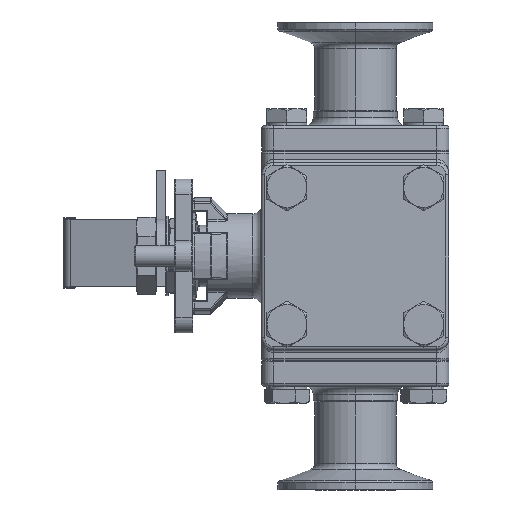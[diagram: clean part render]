
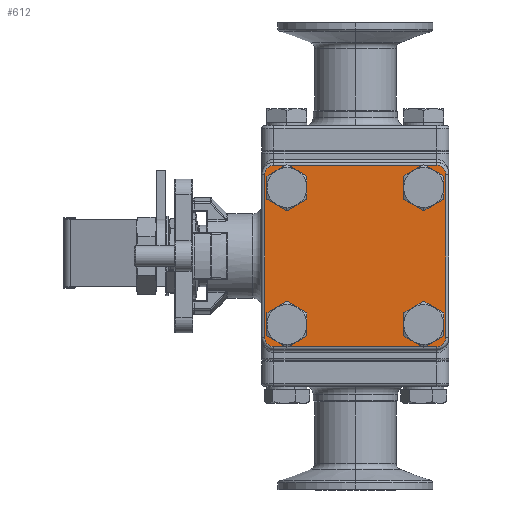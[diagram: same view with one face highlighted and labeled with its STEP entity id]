
A CAD part, left-side view. The second image highlights one B-rep face of the part: STEP entity #612.
In plain terms, the highlighted planar face has unit normal (-1, 0, 0) as drawn and (0, 0, 1) by its records, which use the part's own axes.
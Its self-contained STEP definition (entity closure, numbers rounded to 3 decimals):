
#413 = CARTESIAN_POINT ( 'NONE',  ( 17.774, -22.274, 7. ) ) ;
#603 = AXIS2_PLACEMENT_3D ( 'NONE', #10804, #19216, #32545 ) ;
#612 = ADVANCED_FACE ( 'NONE', ( #33209, #25136, #13247, #8987, #12371 ), #34991, .T. ) ;
#753 = AXIS2_PLACEMENT_3D ( 'NONE', #24446, #8189, #27177 ) ;
#809 = AXIS2_PLACEMENT_3D ( 'NONE', #5901, #24891, #8505 ) ;
#950 = DIRECTION ( 'NONE',  ( 0., 0., 1. ) ) ;
#1202 = CIRCLE ( 'NONE', #18244, 4.5 ) ;
#1226 = DIRECTION ( 'NONE',  ( 0., 0., 1. ) ) ;
#1322 = ORIENTED_EDGE ( 'NONE', *, *, #29002, .F. ) ;
#1678 = VERTEX_POINT ( 'NONE', #9327 ) ;
#1955 = ORIENTED_EDGE ( 'NONE', *, *, #20325, .T. ) ;
#2884 = EDGE_CURVE ( 'NONE', #15556, #30813, #1202, .T. ) ;
#2934 = CARTESIAN_POINT ( 'NONE',  ( -26.5, -29.5, 7. ) ) ;
#3009 = VERTEX_POINT ( 'NONE', #11988 ) ;
#3126 = CIRCLE ( 'NONE', #21395, 4.5 ) ;
#3711 = VERTEX_POINT ( 'NONE', #16813 ) ;
#3804 = CARTESIAN_POINT ( 'NONE',  ( 26.5, 29.5, 7. ) ) ;
#3986 = DIRECTION ( 'NONE',  ( 1., 0., 0. ) ) ;
#4387 = DIRECTION ( 'NONE',  ( 0., 0., 1. ) ) ;
#4509 = DIRECTION ( 'NONE',  ( 1., 0., 0. ) ) ;
#4616 = ORIENTED_EDGE ( 'NONE', *, *, #13915, .T. ) ;
#5335 = DIRECTION ( 'NONE',  ( 0., -1., 0. ) ) ;
#5838 = VERTEX_POINT ( 'NONE', #9354 ) ;
#5901 = CARTESIAN_POINT ( 'NONE',  ( -22.274, 22.274, 7. ) ) ;
#6159 = EDGE_CURVE ( 'NONE', #5838, #21284, #22734, .T. ) ;
#6320 = CARTESIAN_POINT ( 'NONE',  ( 26.5, -26.5, 7. ) ) ;
#6702 = CIRCLE ( 'NONE', #753, 4.5 ) ;
#7345 = CARTESIAN_POINT ( 'NONE',  ( 22.274, -22.274, 7. ) ) ;
#7387 = ORIENTED_EDGE ( 'NONE', *, *, #22153, .T. ) ;
#7928 = CARTESIAN_POINT ( 'NONE',  ( -29.5, -26.5, 7. ) ) ;
#8144 = AXIS2_PLACEMENT_3D ( 'NONE', #13406, #11122, #30464 ) ;
#8189 = DIRECTION ( 'NONE',  ( 0., 0., 1. ) ) ;
#8221 = ORIENTED_EDGE ( 'NONE', *, *, #10418, .F. ) ;
#8505 = DIRECTION ( 'NONE',  ( 1., 0., 0. ) ) ;
#8940 = VERTEX_POINT ( 'NONE', #16296 ) ;
#8987 = FACE_BOUND ( 'NONE', #22451, .T. ) ;
#9004 = CIRCLE ( 'NONE', #603, 3. ) ;
#9327 = CARTESIAN_POINT ( 'NONE',  ( -17.774, 22.274, 7. ) ) ;
#9354 = CARTESIAN_POINT ( 'NONE',  ( -29.5, -26.5, 7. ) ) ;
#9428 = LINE ( 'NONE', #19848, #29400 ) ;
#9600 = ORIENTED_EDGE ( 'NONE', *, *, #28346, .T. ) ;
#9664 = VERTEX_POINT ( 'NONE', #3804 ) ;
#9879 = DIRECTION ( 'NONE',  ( 0., 0., 1. ) ) ;
#10359 = ORIENTED_EDGE ( 'NONE', *, *, #20384, .F. ) ;
#10418 = EDGE_CURVE ( 'NONE', #26160, #12415, #13061, .T. ) ;
#10458 = AXIS2_PLACEMENT_3D ( 'NONE', #26898, #13389, #32146 ) ;
#10608 = VERTEX_POINT ( 'NONE', #30667 ) ;
#10804 = CARTESIAN_POINT ( 'NONE',  ( -26.5, 26.5, 7. ) ) ;
#11023 = LINE ( 'NONE', #28121, #26298 ) ;
#11122 = DIRECTION ( 'NONE',  ( 0., 0., 1. ) ) ;
#11174 = DIRECTION ( 'NONE',  ( 0., 0., 1. ) ) ;
#11521 = DIRECTION ( 'NONE',  ( 0., 1., 0. ) ) ;
#11988 = CARTESIAN_POINT ( 'NONE',  ( -17.774, -22.274, 7. ) ) ;
#12339 = DIRECTION ( 'NONE',  ( 1., 0., 0. ) ) ;
#12371 = FACE_BOUND ( 'NONE', #34246, .T. ) ;
#12415 = VERTEX_POINT ( 'NONE', #34893 ) ;
#12476 = CARTESIAN_POINT ( 'NONE',  ( -26.5, 29.5, 7. ) ) ;
#13061 = CIRCLE ( 'NONE', #13262, 4.5 ) ;
#13247 = FACE_BOUND ( 'NONE', #21094, .T. ) ;
#13262 = AXIS2_PLACEMENT_3D ( 'NONE', #16222, #32844, #18943 ) ;
#13389 = DIRECTION ( 'NONE',  ( 0., 0., 1. ) ) ;
#13406 = CARTESIAN_POINT ( 'NONE',  ( -26.5, -26.5, 7. ) ) ;
#13490 = VERTEX_POINT ( 'NONE', #30313 ) ;
#13523 = AXIS2_PLACEMENT_3D ( 'NONE', #7345, #18255, #4509 ) ;
#13915 = EDGE_CURVE ( 'NONE', #10608, #13490, #9428, .T. ) ;
#13922 = CARTESIAN_POINT ( 'NONE',  ( 22.274, -22.274, 7. ) ) ;
#15250 = CARTESIAN_POINT ( 'NONE',  ( -26.774, -22.274, 7. ) ) ;
#15260 = CARTESIAN_POINT ( 'NONE',  ( 26.774, -22.274, 7. ) ) ;
#15556 = VERTEX_POINT ( 'NONE', #15260 ) ;
#15666 = AXIS2_PLACEMENT_3D ( 'NONE', #18032, #4387, #31562 ) ;
#15804 = LINE ( 'NONE', #7928, #16687 ) ;
#16222 = CARTESIAN_POINT ( 'NONE',  ( 22.274, 22.274, 7. ) ) ;
#16245 = EDGE_CURVE ( 'NONE', #21284, #3711, #11023, .T. ) ;
#16296 = CARTESIAN_POINT ( 'NONE',  ( -29.5, 26.5, 7. ) ) ;
#16406 = VERTEX_POINT ( 'NONE', #15250 ) ;
#16687 = VECTOR ( 'NONE', #5335, 1000. ) ;
#16813 = CARTESIAN_POINT ( 'NONE',  ( 26.5, -29.5, 7. ) ) ;
#16912 = CARTESIAN_POINT ( 'NONE',  ( -26.774, 22.274, 7. ) ) ;
#17140 = CIRCLE ( 'NONE', #19393, 3. ) ;
#17946 = ORIENTED_EDGE ( 'NONE', *, *, #16245, .T. ) ;
#18032 = CARTESIAN_POINT ( 'NONE',  ( -22.274, -22.274, 7. ) ) ;
#18111 = CARTESIAN_POINT ( 'NONE',  ( 26.774, 22.274, 7. ) ) ;
#18244 = AXIS2_PLACEMENT_3D ( 'NONE', #13922, #11174, #24962 ) ;
#18255 = DIRECTION ( 'NONE',  ( 0., 0., 1. ) ) ;
#18307 = DIRECTION ( 'NONE',  ( 1., 0., 0. ) ) ;
#18943 = DIRECTION ( 'NONE',  ( 1., 0., 0. ) ) ;
#19072 = AXIS2_PLACEMENT_3D ( 'NONE', #6320, #950, #33398 ) ;
#19216 = DIRECTION ( 'NONE',  ( 0., 0., 1. ) ) ;
#19393 = AXIS2_PLACEMENT_3D ( 'NONE', #28374, #20296, #12339 ) ;
#19840 = CIRCLE ( 'NONE', #15666, 4.5 ) ;
#19848 = CARTESIAN_POINT ( 'NONE',  ( 29.5, 26.5, 7. ) ) ;
#20296 = DIRECTION ( 'NONE',  ( 0., 0., 1. ) ) ;
#20325 = EDGE_CURVE ( 'NONE', #8940, #5838, #15804, .T. ) ;
#20384 = EDGE_CURVE ( 'NONE', #1678, #28136, #34935, .T. ) ;
#20720 = ORIENTED_EDGE ( 'NONE', *, *, #30039, .F. ) ;
#20794 = EDGE_CURVE ( 'NONE', #23685, #8940, #9004, .T. ) ;
#21094 = EDGE_LOOP ( 'NONE', ( #23845, #8221 ) ) ;
#21195 = ORIENTED_EDGE ( 'NONE', *, *, #2884, .F. ) ;
#21284 = VERTEX_POINT ( 'NONE', #2934 ) ;
#21395 = AXIS2_PLACEMENT_3D ( 'NONE', #23184, #1226, #3986 ) ;
#22153 = EDGE_CURVE ( 'NONE', #3711, #10608, #32531, .T. ) ;
#22451 = EDGE_LOOP ( 'NONE', ( #25147, #21195 ) ) ;
#22734 = CIRCLE ( 'NONE', #8144, 3. ) ;
#23083 = ORIENTED_EDGE ( 'NONE', *, *, #30578, .T. ) ;
#23184 = CARTESIAN_POINT ( 'NONE',  ( -22.274, -22.274, 7. ) ) ;
#23418 = AXIS2_PLACEMENT_3D ( 'NONE', #23533, #9879, #18307 ) ;
#23533 = CARTESIAN_POINT ( 'NONE',  ( -22.274, 22.274, 7. ) ) ;
#23685 = VERTEX_POINT ( 'NONE', #26771 ) ;
#23845 = ORIENTED_EDGE ( 'NONE', *, *, #27428, .F. ) ;
#24147 = EDGE_CURVE ( 'NONE', #28136, #1678, #29391, .T. ) ;
#24400 = ORIENTED_EDGE ( 'NONE', *, *, #24147, .F. ) ;
#24446 = CARTESIAN_POINT ( 'NONE',  ( 22.274, 22.274, 7. ) ) ;
#24891 = DIRECTION ( 'NONE',  ( 0., 0., 1. ) ) ;
#24962 = DIRECTION ( 'NONE',  ( 1., 0., 0. ) ) ;
#25136 = FACE_BOUND ( 'NONE', #32734, .T. ) ;
#25147 = ORIENTED_EDGE ( 'NONE', *, *, #27252, .F. ) ;
#26160 = VERTEX_POINT ( 'NONE', #18111 ) ;
#26298 = VECTOR ( 'NONE', #33831, 1000. ) ;
#26362 = DIRECTION ( 'NONE',  ( -1., 0., 0. ) ) ;
#26771 = CARTESIAN_POINT ( 'NONE',  ( -26.5, 29.5, 7. ) ) ;
#26898 = CARTESIAN_POINT ( 'NONE',  ( 26.5, -26.5, 7. ) ) ;
#27177 = DIRECTION ( 'NONE',  ( 1., 0., 0. ) ) ;
#27252 = EDGE_CURVE ( 'NONE', #30813, #15556, #30079, .T. ) ;
#27428 = EDGE_CURVE ( 'NONE', #12415, #26160, #6702, .T. ) ;
#27528 = LINE ( 'NONE', #12476, #33056 ) ;
#28121 = CARTESIAN_POINT ( 'NONE',  ( 26.5, -29.5, 7. ) ) ;
#28136 = VERTEX_POINT ( 'NONE', #16912 ) ;
#28346 = EDGE_CURVE ( 'NONE', #9664, #23685, #27528, .T. ) ;
#28374 = CARTESIAN_POINT ( 'NONE',  ( 26.5, 26.5, 7. ) ) ;
#29002 = EDGE_CURVE ( 'NONE', #3009, #16406, #19840, .T. ) ;
#29391 = CIRCLE ( 'NONE', #23418, 4.5 ) ;
#29400 = VECTOR ( 'NONE', #11521, 1000. ) ;
#29827 = EDGE_LOOP ( 'NONE', ( #4616, #23083, #9600, #34104, #1955, #30070, #17946, #7387 ) ) ;
#30039 = EDGE_CURVE ( 'NONE', #16406, #3009, #3126, .T. ) ;
#30070 = ORIENTED_EDGE ( 'NONE', *, *, #6159, .T. ) ;
#30079 = CIRCLE ( 'NONE', #13523, 4.5 ) ;
#30313 = CARTESIAN_POINT ( 'NONE',  ( 29.5, 26.5, 7. ) ) ;
#30464 = DIRECTION ( 'NONE',  ( 1., 0., 0. ) ) ;
#30578 = EDGE_CURVE ( 'NONE', #13490, #9664, #17140, .T. ) ;
#30667 = CARTESIAN_POINT ( 'NONE',  ( 29.5, -26.5, 7. ) ) ;
#30813 = VERTEX_POINT ( 'NONE', #413 ) ;
#31562 = DIRECTION ( 'NONE',  ( 1., 0., 0. ) ) ;
#32146 = DIRECTION ( 'NONE',  ( 1., 0., 0. ) ) ;
#32531 = CIRCLE ( 'NONE', #19072, 3. ) ;
#32545 = DIRECTION ( 'NONE',  ( 1., 0., 0. ) ) ;
#32734 = EDGE_LOOP ( 'NONE', ( #20720, #1322 ) ) ;
#32844 = DIRECTION ( 'NONE',  ( 0., 0., 1. ) ) ;
#33056 = VECTOR ( 'NONE', #26362, 1000. ) ;
#33209 = FACE_OUTER_BOUND ( 'NONE', #29827, .T. ) ;
#33398 = DIRECTION ( 'NONE',  ( 1., 0., 0. ) ) ;
#33831 = DIRECTION ( 'NONE',  ( 1., 0., 0. ) ) ;
#34104 = ORIENTED_EDGE ( 'NONE', *, *, #20794, .T. ) ;
#34246 = EDGE_LOOP ( 'NONE', ( #24400, #10359 ) ) ;
#34893 = CARTESIAN_POINT ( 'NONE',  ( 17.774, 22.274, 7. ) ) ;
#34935 = CIRCLE ( 'NONE', #809, 4.5 ) ;
#34991 = PLANE ( 'NONE',  #10458 ) ;
